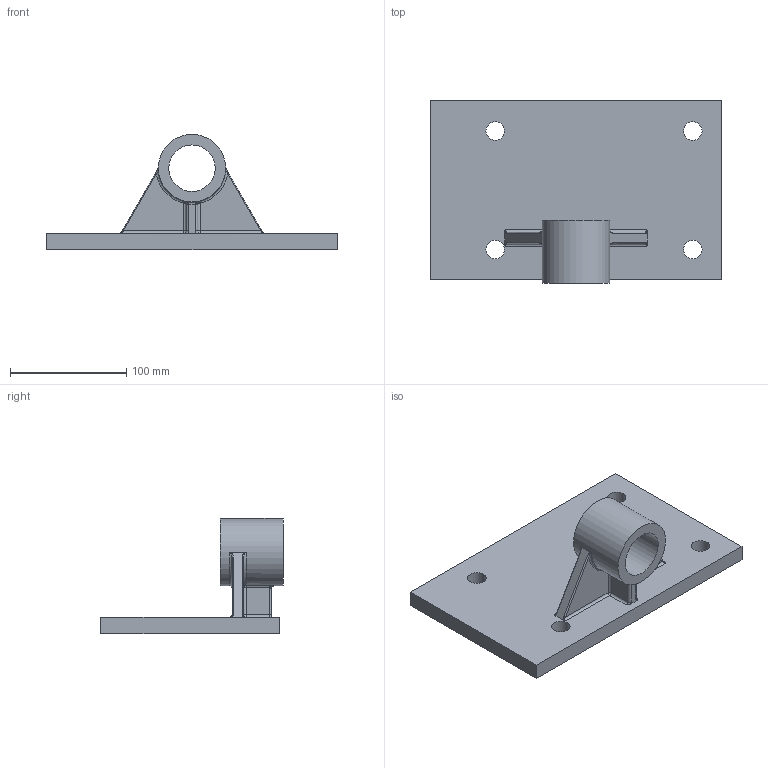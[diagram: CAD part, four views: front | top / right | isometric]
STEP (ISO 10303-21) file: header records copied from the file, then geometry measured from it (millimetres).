
FILE_DESCRIPTION((''),'2;1');
FILE_NAME('D:\PAWEŁ\ZLECENIA\DualSystem\001 Modele\DKAB70_\DK_70-_STEP\AT_70.stp','2011-11-25T00:43:59',('Pawe'),(''),'Autodesk Inventor 2009','Autodesk Inventor 2009','');
FILE_SCHEMA(('AUTOMOTIVE_DESIGN { 1 0 10303 214 1 1 1 1 }'));
Length unit declared in the file: millimetre
Products named in the file (1): AT_70
Bounding box: 250 x 157 x 99 mm (x, y, z)
Volume: 646812.7 mm3; surface area: 115771.9 mm2
Topology: 1 solids, 1 shells, 59 faces, 142 edges, 82 vertices
Faces by surface type: cylinder 21, bspline 20, plane 16, torus 2
Full cylindrical faces by diameter (mm): 16 x4, 40 x1, 58 x1
Entity records: 3161 total; most frequent: CARTESIAN_POINT 1873, ORIENTED_EDGE 262, DIRECTION 243, EDGE_CURVE 131, AXIS2_PLACEMENT_3D 98, VERTEX_POINT 82, EDGE_LOOP 77, FACE_OUTER_BOUND 59
